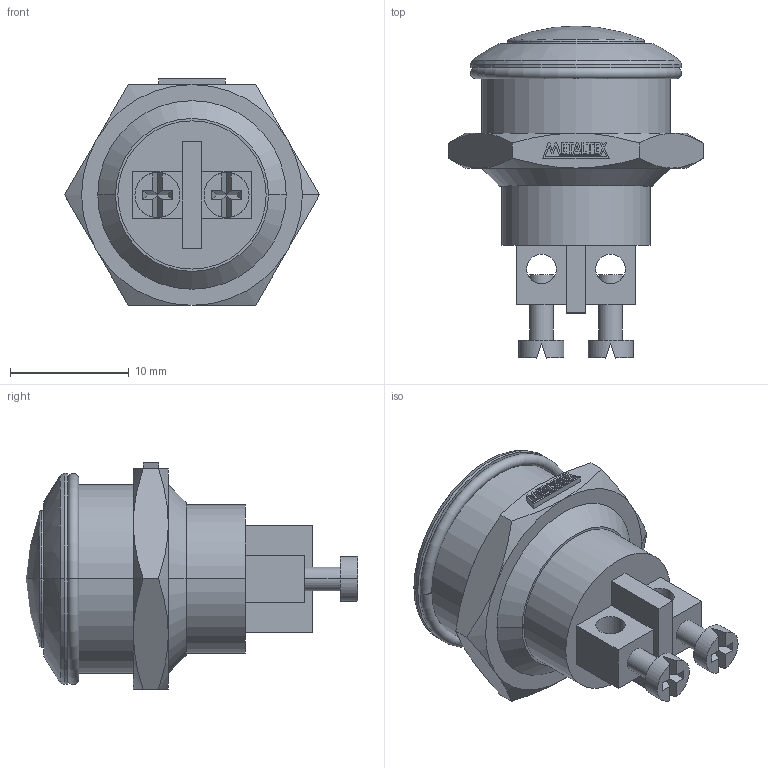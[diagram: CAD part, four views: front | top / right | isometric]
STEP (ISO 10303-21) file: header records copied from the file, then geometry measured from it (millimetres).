
FILE_DESCRIPTION (( 'STEP AP203' ), '1' );
FILE_NAME ('AV16BA.STEP', '2018-01-17T14:32:13', ( '' ), ( '' ), 'SwSTEP 2.0', 'SolidWorks 2012', '' );
FILE_SCHEMA (( 'CONFIG_CONTROL_DESIGN' ));
Length unit declared in the file: millimetre
Products named in the file (3): AV16BA; METALTEX 5,62
Assembly tree (2 placements, depth 2):
  AV16BA
    AV16BA
    METALTEX 5,62
Bounding box: 21.5 x 28 x 19.12 mm (x, y, z)
Volume: 3625 mm3; surface area: 2054.4 mm2
Topology: 8 solids, 8 shells, 202 faces, 486 edges, 313 vertices
Faces by surface type: plane 150, cylinder 26, cone 18, torus 4, sphere 4
Entity records: 6257 total; most frequent: CARTESIAN_POINT 1242, ORIENTED_EDGE 972, DIRECTION 950, EDGE_CURVE 486, LINE 364, VECTOR 364, VERTEX_POINT 313, AXIS2_PLACEMENT_3D 293
